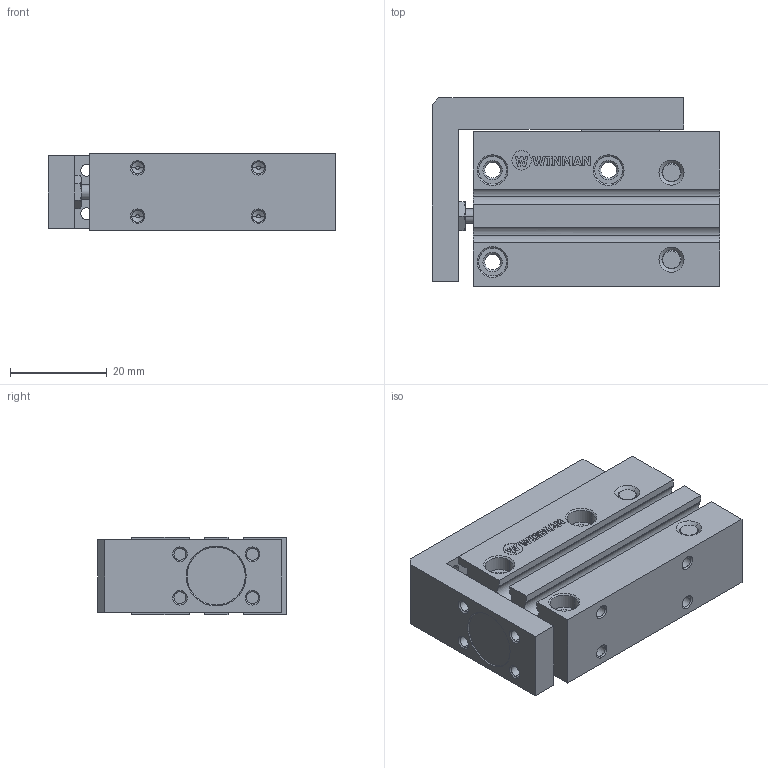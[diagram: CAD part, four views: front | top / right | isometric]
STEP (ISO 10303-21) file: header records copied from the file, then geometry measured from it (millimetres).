
FILE_DESCRIPTION (( 'STEP AP214' ), '1' );
FILE_NAME ('WLH-006-0020 (MDMY).STEP', '2016-07-22T08:20:47', ( 'Hidtek' ), ( '' ), 'SwSTEP 2.0', 'SolidWorks 2016', '' );
FILE_SCHEMA (( 'AUTOMOTIVE_DESIGN' ));
Length unit declared in the file: millimetre
Products named in the file (3): WLH-006-0020 (MDMY); WLH-006-0020_rod-1^WLH-006-0020 (MDMY); WLH-006-0020_body-1^WLH-006-0020 (MDMY)
Assembly tree (2 placements, depth 2):
  WLH-006-0020 (MDMY)
    WLH-006-0020_body-1^WLH-006-0020 (MDMY)
    WLH-006-0020_rod-1^WLH-006-0020 (MDMY)
Bounding box: 59.5 x 39 x 16 mm (x, y, z)
Volume: 27022 mm3; surface area: 15674 mm2
Topology: 2 solids, 2 shells, 405 faces, 977 edges, 618 vertices
Faces by surface type: plane 191, cone 114, cylinder 96, bspline 4
Entity records: 13019 total; most frequent: CARTESIAN_POINT 2175, DIRECTION 2107, ORIENTED_EDGE 1946, EDGE_CURVE 973, AXIS2_PLACEMENT_3D 746, VERTEX_POINT 618, LINE 615, VECTOR 615
